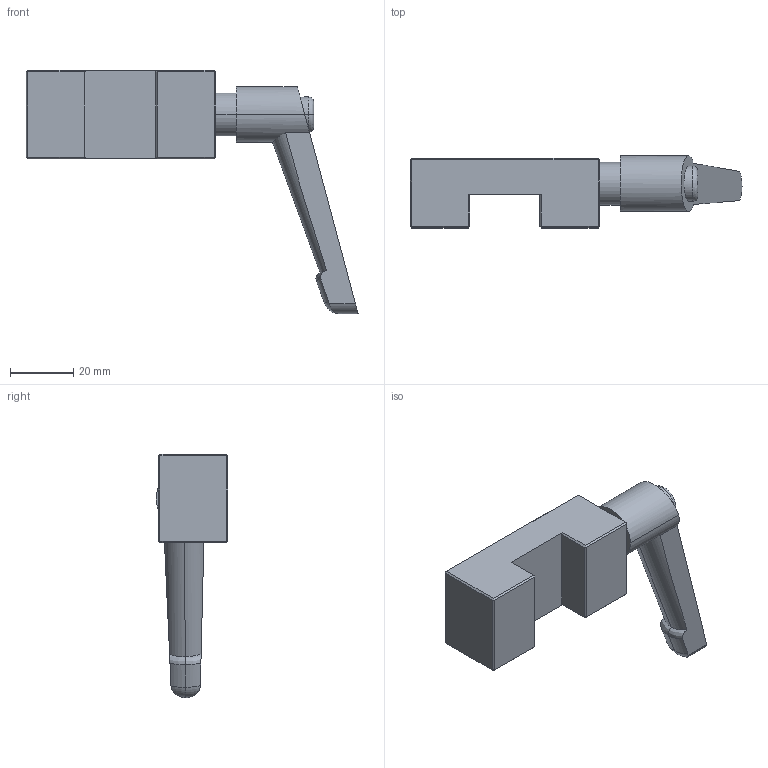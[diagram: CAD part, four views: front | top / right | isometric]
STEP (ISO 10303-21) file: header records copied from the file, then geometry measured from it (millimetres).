
FILE_DESCRIPTION (( 'STEP AP214' ), '1' );
FILE_NAME ('2.9002 Lukitusyksikkö 20.STEP', '2025-01-10T12:20:16', ( '' ), ( '' ), 'SwSTEP 2.0', 'SolidWorks 2024', '' );
FILE_SCHEMA (( 'AUTOMOTIVE_DESIGN' ));
Length unit declared in the file: millimetre
Products named in the file (3): 2.9011 Kiinnitysvipu M6 AL L50 ulkokierteellä; 2.9002 Lukitusyksikkö 20; Runko 20
Assembly tree (2 placements, depth 2):
  2.9002 Lukitusyksikkö 20
    Runko 20
    2.9011 Kiinnitysvipu M6 AL L50 ulkokierteellä
Bounding box: 105 x 22.75 x 77 mm (x, y, z)
Volume: 42124.2 mm3; surface area: 13679.5 mm2
Topology: 2 solids, 2 shells, 118 faces, 275 edges, 158 vertices
Faces by surface type: plane 49, cylinder 41, cone 22, bspline 4, torus 2
Entity records: 4200 total; most frequent: CARTESIAN_POINT 1023, ORIENTED_EDGE 526, DIRECTION 484, EDGE_CURVE 263, AXIS2_PLACEMENT_3D 171, VERTEX_POINT 158, LINE 142, VECTOR 142
